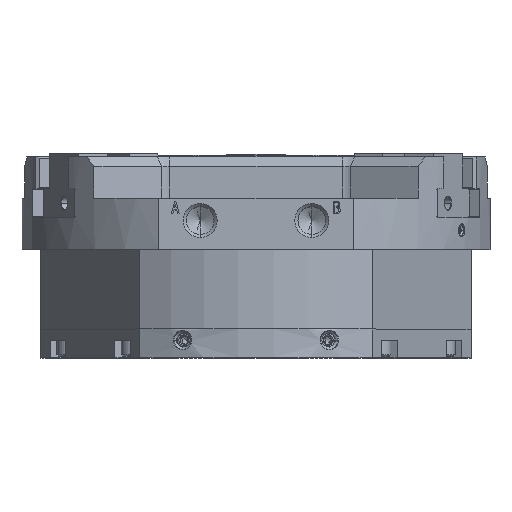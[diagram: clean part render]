
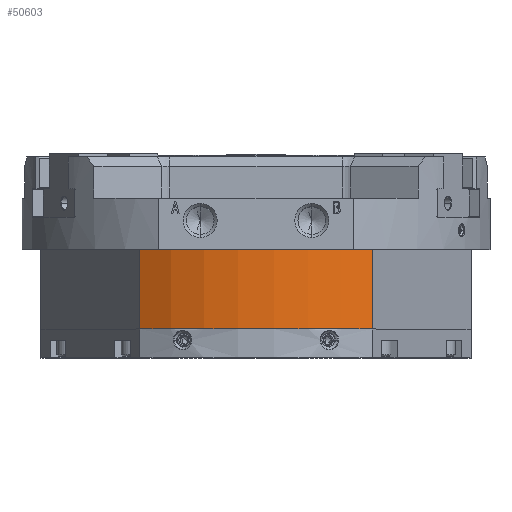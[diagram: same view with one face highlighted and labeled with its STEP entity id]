
A CAD part, top view. The second image highlights one B-rep face of the part: STEP entity #50603.
In plain terms, the highlighted cylindrical face has radius 67.5 mm (diameter 135 mm), a partial arc.
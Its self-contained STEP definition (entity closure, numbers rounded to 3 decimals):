
#1084 = VECTOR ( 'NONE', #52882, 1000. ) ;
#1152 = AXIS2_PLACEMENT_3D ( 'NONE', #39414, #11457, #67793 ) ;
#3795 = EDGE_CURVE ( 'NONE', #23051, #27438, #44564, .T. ) ;
#8200 = CARTESIAN_POINT ( 'NONE',  ( 36.5, -56.78, 114.778 ) ) ;
#9487 = ORIENTED_EDGE ( 'NONE', *, *, #37075, .F. ) ;
#11457 = DIRECTION ( 'NONE',  ( 0., 0., 1. ) ) ;
#11681 = CARTESIAN_POINT ( 'NONE',  ( -36.5, -56.78, 114.778 ) ) ;
#15223 = EDGE_CURVE ( 'NONE', #30117, #36665, #72434, .T. ) ;
#21316 = EDGE_LOOP ( 'NONE', ( #36646, #52240, #9487, #23505 ) ) ;
#22124 = AXIS2_PLACEMENT_3D ( 'NONE', #45472, #34385, #67939 ) ;
#22713 = LINE ( 'NONE', #11681, #1084 ) ;
#23051 = VERTEX_POINT ( 'NONE', #46134 ) ;
#23505 = ORIENTED_EDGE ( 'NONE', *, *, #15223, .F. ) ;
#24750 = DIRECTION ( 'NONE',  ( 0., 0., -1. ) ) ;
#26222 = DIRECTION ( 'NONE',  ( 1., 0., 0. ) ) ;
#26553 = AXIS2_PLACEMENT_3D ( 'NONE', #66405, #31018, #26222 ) ;
#27438 = VERTEX_POINT ( 'NONE', #68145 ) ;
#30117 = VERTEX_POINT ( 'NONE', #47909 ) ;
#31018 = DIRECTION ( 'NONE',  ( 0., 0., 1. ) ) ;
#34385 = DIRECTION ( 'NONE',  ( 0., 0., 1. ) ) ;
#36646 = ORIENTED_EDGE ( 'NONE', *, *, #53988, .F. ) ;
#36665 = VERTEX_POINT ( 'NONE', #62870 ) ;
#37075 = EDGE_CURVE ( 'NONE', #36665, #27438, #53168, .T. ) ;
#39414 = CARTESIAN_POINT ( 'NONE',  ( 0., 0., -54. ) ) ;
#44564 = CIRCLE ( 'NONE', #1152, 67.5 ) ;
#45472 = CARTESIAN_POINT ( 'NONE',  ( 0., 0., 114.778 ) ) ;
#45844 = CYLINDRICAL_SURFACE ( 'NONE', #22124, 67.5 ) ;
#46134 = CARTESIAN_POINT ( 'NONE',  ( -36.5, -56.78, -54. ) ) ;
#47203 = VECTOR ( 'NONE', #24750, 1000. ) ;
#47909 = CARTESIAN_POINT ( 'NONE',  ( -36.5, -56.78, -29. ) ) ;
#50603 = ADVANCED_FACE ( 'NONE', ( #70352 ), #45844, .T. ) ;
#52240 = ORIENTED_EDGE ( 'NONE', *, *, #3795, .T. ) ;
#52882 = DIRECTION ( 'NONE',  ( 0., 0., 1. ) ) ;
#53168 = LINE ( 'NONE', #8200, #47203 ) ;
#53988 = EDGE_CURVE ( 'NONE', #23051, #30117, #22713, .T. ) ;
#62870 = CARTESIAN_POINT ( 'NONE',  ( 36.5, -56.78, -29. ) ) ;
#66405 = CARTESIAN_POINT ( 'NONE',  ( 0., 0., -29. ) ) ;
#67793 = DIRECTION ( 'NONE',  ( 1., 0., 0. ) ) ;
#67939 = DIRECTION ( 'NONE',  ( 1., 0., 0. ) ) ;
#68145 = CARTESIAN_POINT ( 'NONE',  ( 36.5, -56.78, -54. ) ) ;
#70352 = FACE_OUTER_BOUND ( 'NONE', #21316, .T. ) ;
#72434 = CIRCLE ( 'NONE', #26553, 67.5 ) ;
